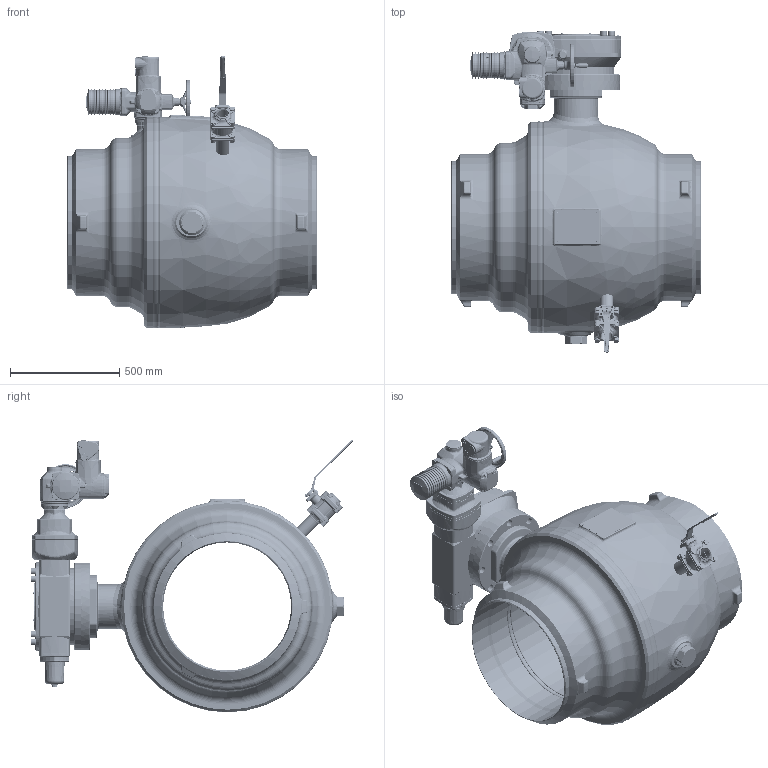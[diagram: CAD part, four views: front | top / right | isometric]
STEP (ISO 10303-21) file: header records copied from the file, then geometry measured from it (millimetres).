
FILE_DESCRIPTION((''),'2;1');
FILE_NAME('ASM0001_ASM','2026-01-28T11:16:57',('schwaba'),('KLINGER'),'CREO PARAMETRIC BY PTC INC, 2023014','CREO PARAMETRIC BY PTC INC, 2023014','');
FILE_SCHEMA(('CONFIG_CONTROL_DESIGN'));
Length unit declared in the file: millimetre
Products named in the file (4): KHSVI_600_FR_WE_ENTL; GS200_864_F30_F10_DN600; SA10_2_F10_STD; ASM0001_ASM
Assembly tree (3 placements, depth 2):
  ASM0001_ASM
    KHSVI_600_FR_WE_ENTL
    GS200_864_F30_F10_DN600
    SA10_2_F10_STD
Bounding box: 1143 x 1469.04 x 1245.7 mm (x, y, z)
Volume: 245924930.7 mm3; surface area: 14320031.1 mm2
Topology: 3 solids, 8 shells, 6812 faces, 16328 edges, 9653 vertices
Faces by surface type: plane 1775, cylinder 1626, bspline 1137, torus 1111, cone 927, sphere 147, extrusion 53, revolution 36
Entity records: 408378 total; most frequent: CARTESIAN_POINT 260556, ORIENTED_EDGE 32404, DIRECTION 28903, EDGE_CURVE 16202, AXIS2_PLACEMENT_3D 12135, VERTEX_POINT 9653, EDGE_LOOP 7199, FACE_OUTER_BOUND 6812
